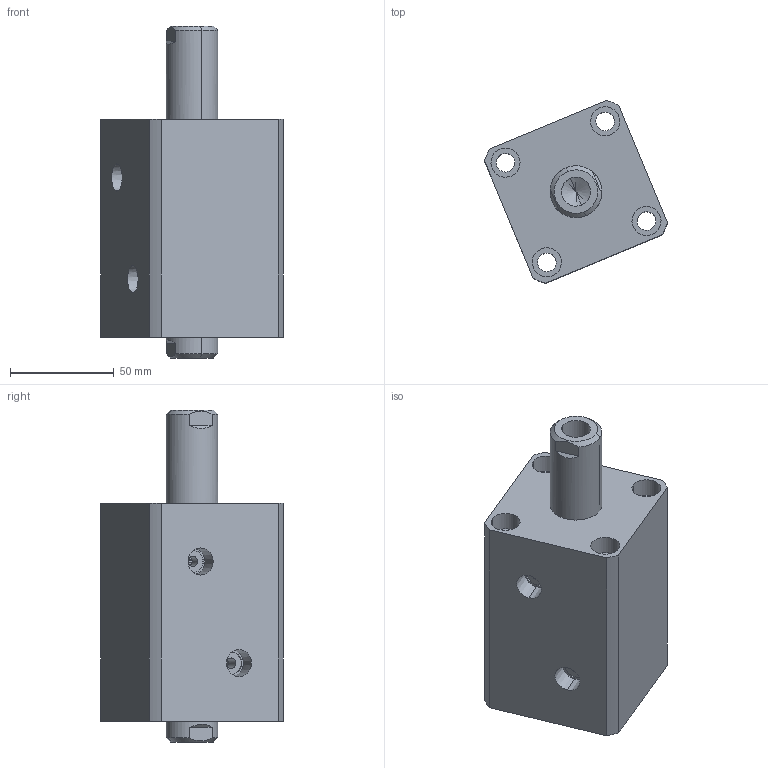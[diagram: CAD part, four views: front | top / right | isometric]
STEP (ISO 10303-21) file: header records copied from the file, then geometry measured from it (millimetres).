
FILE_DESCRIPTION (( 'STEP AP214' ), '1' );
FILE_NAME ('chtb-sw40x35n_asm.STEP', '2018-06-08T11:52:37', ( 'Windows' ), ( 'Microsoft' ), 'SwSTEP 2.0', 'SolidWorks 2015', '' );
FILE_SCHEMA (( 'AUTOMOTIVE_DESIGN' ));
Length unit declared in the file: millimetre
Products named in the file (4): CHTB-SW40X35NHSG; CHTB-SW40X35NBT; CHTB-SD40QG; chtb-sw40x35n_asm
Assembly tree (3 placements, depth 2):
  chtb-sw40x35n_asm
    CHTB-SD40QG
    CHTB-SW40X35NBT
    CHTB-SW40X35NHSG
Bounding box: 88.11 x 88.11 x 160 mm (x, y, z)
Volume: 464856.7 mm3; surface area: 91340.7 mm2
Topology: 3 solids, 3 shells, 167 faces, 429 edges, 282 vertices
Faces by surface type: cylinder 84, plane 40, cone 17, bspline 14, torus 12
Entity records: 10325 total; most frequent: CARTESIAN_POINT 6131, ORIENTED_EDGE 838, DIRECTION 822, EDGE_CURVE 419, AXIS2_PLACEMENT_3D 348, VERTEX_POINT 282, EDGE_LOOP 207, CIRCLE 189
